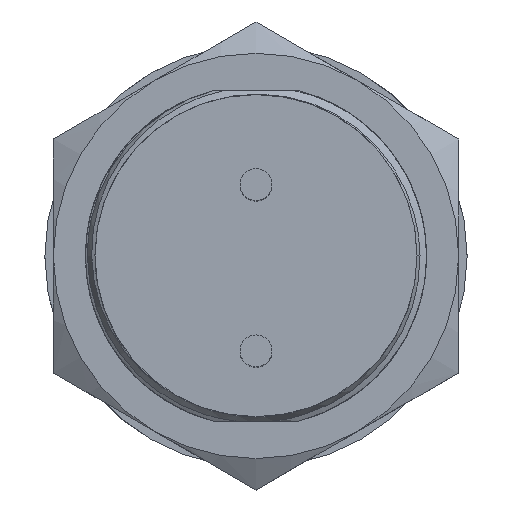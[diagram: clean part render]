
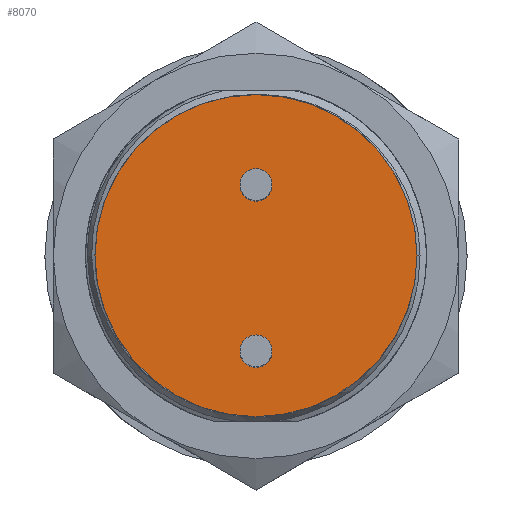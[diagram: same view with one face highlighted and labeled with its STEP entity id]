
A CAD part, top view. The second image highlights one B-rep face of the part: STEP entity #8070.
In plain terms, the highlighted planar face has unit normal (0, 0, 1).
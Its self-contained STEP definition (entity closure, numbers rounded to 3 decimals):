
#2494=CARTESIAN_POINT('',(0.,0.,15.));
#2495=DIRECTION('',(0.,0.,-1.));
#2496=DIRECTION('',(1.,0.,0.));
#2497=AXIS2_PLACEMENT_3D('',#2494,#2495,#2496);
#2499=CARTESIAN_POINT('',(0.,0.,15.));
#2500=DIRECTION('',(0.,0.,-1.));
#2501=DIRECTION('',(-1.,0.,0.));
#2502=AXIS2_PLACEMENT_3D('',#2499,#2500,#2501);
#3524=CARTESIAN_POINT('',(7.55,0.,15.));
#3525=VERTEX_POINT('',#3524);
#3526=CARTESIAN_POINT('',(-7.55,0.,15.));
#3527=VERTEX_POINT('',#3526);
#8061=CARTESIAN_POINT('',(0.,0.,15.));
#8062=DIRECTION('',(0.,0.,1.));
#8063=DIRECTION('',(0.,1.,0.));
#8064=AXIS2_PLACEMENT_3D('',#8061,#8062,#8063);
#8065=PLANE('',#8064);
#8066=ORIENTED_EDGE('',*,*,#8054,.T.);
#8067=ORIENTED_EDGE('',*,*,#8009,.T.);
#8068=EDGE_LOOP('',(#8066,#8067));
#8069=FACE_OUTER_BOUND('',#8068,.F.);
#8070=ADVANCED_FACE('',(#8069),#8065,.T.);
#2498=CIRCLE('',#2497,7.55);
#2503=CIRCLE('',#2502,7.55);
#8009=EDGE_CURVE('',#3527,#3525,#2503,.T.);
#8054=EDGE_CURVE('',#3525,#3527,#2498,.T.);
